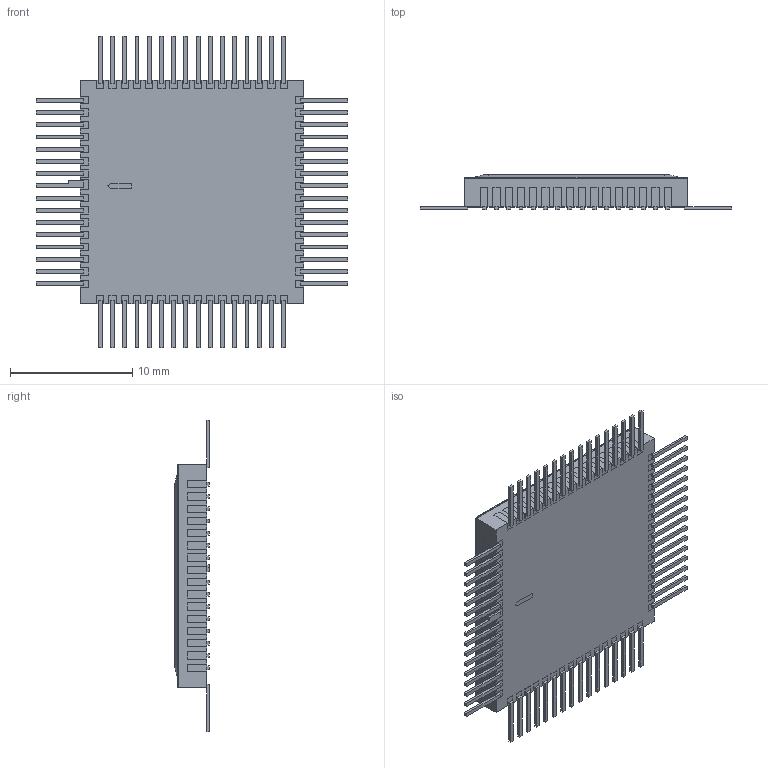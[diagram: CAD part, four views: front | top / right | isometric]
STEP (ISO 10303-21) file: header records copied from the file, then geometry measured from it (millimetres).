
FILE_DESCRIPTION (( 'STEP AP214' ), '1' );
FILE_NAME ('ﾍ18.64-1ﾂ.STEP', '2018-04-28T11:02:06', ( 'Admin' ), ( '' ), 'SwSTEP 2.0', 'SolidWorks 2015', '' );
FILE_SCHEMA (( 'AUTOMOTIVE_DESIGN' ));
Length unit declared in the file: millimetre
Products named in the file (5): ﾎ魵瑙韃 ﾍ18.64-1ﾂ; Êðûøêà Í18.64-1Â; ﾍ18.64-1ﾂ
Assembly tree (2 placements, depth 2):
  Êðûøêà Í18.64-1Â
  ﾎ魵瑙韃 ﾍ18.64-1ﾂ
  ﾍ18.64-1ﾂ
    ﾎ魵瑙韃 ﾍ18.64-1ﾂ
    Êðûøêà Í18.64-1Â
Bounding box: 25.5 x 2.85 x 25.5 mm (x, y, z)
Volume: 689.1 mm3; surface area: 1824.8 mm2
Topology: 2 solids, 2 shells, 1526 faces, 3999 edges, 2486 vertices
Faces by surface type: plane 1470, cylinder 32, torus 16, cone 8
Entity records: 59185 total; most frequent: CARTESIAN_POINT 8017, ORIENTED_EDGE 7998, DIRECTION 7159, EDGE_CURVE 3999, VECTOR 3903, LINE 3903, VERTEX_POINT 2486, AXIS2_PLACEMENT_3D 1628
